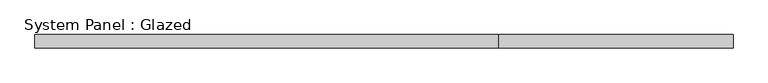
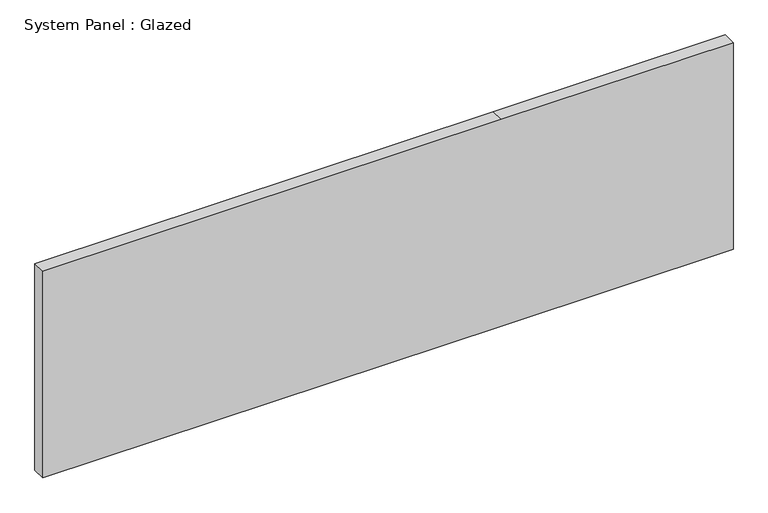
"""IFC4 building model written with IfcOpenShell, lengths in millimetres: plate geometry, System Panel : Glazed."""

from ifc_helpers import new_model, si_unit, frame, origin, place, context, project, spatial, polyline, outline, extrude, source, transform, mapped, element, save


def system_panel_glazed_c7737e29(model_context):
    return source(origin(), model_context, "Body", "SweptSolid", [
        extrude(outline(polyline([(0.0, -643.17875), (0.0, 210.97875), (0.0, 643.17875), (407.2, 643.17875), (407.2, 210.97875), (407.2, -643.17875), (0.0, -643.17875)])), frame((0.0, 24.5, 0.0), z_axis=(0.0, 1.0, 0.0), x_axis=(0.0, 0.0, 1.0)), (0.0, 0.0, 1.0), 25.0),
    ])


if __name__ == "__main__":
    model = new_model("IFC4")
    model_context = context("Model", 3, world=origin())
    ifc_project = project(units=[si_unit("LENGTHUNIT", "METRE", prefix="MILLI")], contexts=[model_context])
    site = spatial("IfcSite", under=ifc_project)
    building = spatial("IfcBuilding", under=site)
    placement = place(None, origin())
    system_panel_glazed_shape = system_panel_glazed_c7737e29(model_context)
    element("IfcPlate", 1, ObjectType="System Panel : Glazed", at=placement, inside=building, context=model_context, shape_type="MappedRepresentation", body=[
        mapped(system_panel_glazed_shape, transform((0.0, 0.0, 0.0), x_axis=(1.0, 0.0, 0.0), y_axis=(0.0, 1.0, 0.0), z_axis=(0.0, 0.0, 1.0))),
    ])
    save(model, "model.ifc")
